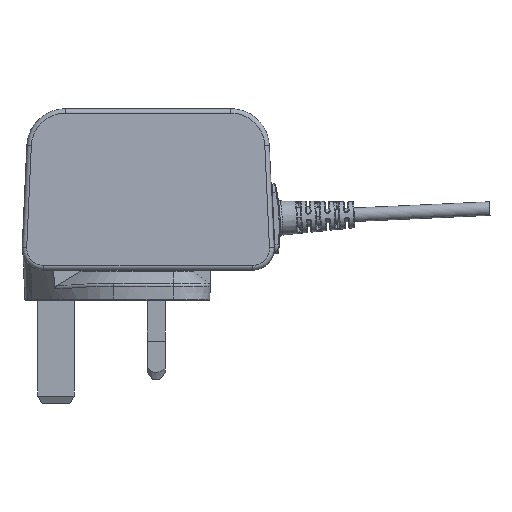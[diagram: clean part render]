
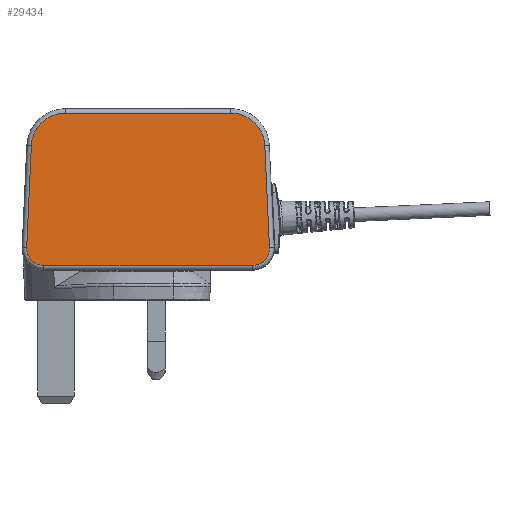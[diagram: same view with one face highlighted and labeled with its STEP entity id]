
A CAD part, left-side view. The second image highlights one B-rep face of the part: STEP entity #29434.
In plain terms, the highlighted planar face has unit normal (-0.999, 0, 0.037).
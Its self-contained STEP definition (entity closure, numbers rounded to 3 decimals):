
#217 = DIRECTION ( 'NONE',  ( -0.025, 0.723, -0.69 ) ) ;
#372 = CARTESIAN_POINT ( 'NONE',  ( 17.325, -21.485, 22.44 ) ) ;
#1573 = ORIENTED_EDGE ( 'NONE', *, *, #40027, .F. ) ;
#2271 = CIRCLE ( 'NONE', #31994, 7.502 ) ;
#4343 = DIRECTION ( 'NONE',  ( 0.027, -0.691, 0.723 ) ) ;
#4667 = DIRECTION ( 'NONE',  ( 0., -1., 0. ) ) ;
#4748 = CARTESIAN_POINT ( 'NONE',  ( 16.503, -16.763, 0.035 ) ) ;
#5650 = ORIENTED_EDGE ( 'NONE', *, *, #34637, .F. ) ;
#6439 = ORIENTED_EDGE ( 'NONE', *, *, #28476, .F. ) ;
#6843 = VECTOR ( 'NONE', #4667, 1000. ) ;
#7517 = CARTESIAN_POINT ( 'NONE',  ( 17.337, -65.615, 22.777 ) ) ;
#8200 = DIRECTION ( 'NONE',  ( 0.999, 0., -0.037 ) ) ;
#8669 = AXIS2_PLACEMENT_3D ( 'NONE', #46934, #55952, #19864 ) ;
#8908 = AXIS2_PLACEMENT_3D ( 'NONE', #45506, #37393, #4343 ) ;
#9168 = LINE ( 'NONE', #45833, #6843 ) ;
#9344 = ORIENTED_EDGE ( 'NONE', *, *, #32627, .F. ) ;
#9481 = VERTEX_POINT ( 'NONE', #56404 ) ;
#9579 = ORIENTED_EDGE ( 'NONE', *, *, #16139, .F. ) ;
#10970 = EDGE_CURVE ( 'NONE', #55919, #27155, #45122, .T. ) ;
#11161 = DIRECTION ( 'NONE',  ( 0.999, 0., -0.037 ) ) ;
#12533 = EDGE_CURVE ( 'NONE', #24747, #17348, #9168, .T. ) ;
#12890 = CARTESIAN_POINT ( 'NONE',  ( 17.524, -16.303, 27.861 ) ) ;
#13050 = CARTESIAN_POINT ( 'NONE',  ( 17.6, -58.123, 29.937 ) ) ;
#13694 = CIRCLE ( 'NONE', #8908, 7.502 ) ;
#13871 = VERTEX_POINT ( 'NONE', #13899 ) ;
#13899 = CARTESIAN_POINT ( 'NONE',  ( 16.407, -14.015, -2.589 ) ) ;
#13904 = ORIENTED_EDGE ( 'NONE', *, *, #52608, .T. ) ;
#15664 = AXIS2_PLACEMENT_3D ( 'NONE', #4748, #23035, #217 ) ;
#15711 = AXIS2_PLACEMENT_3D ( 'NONE', #25542, #39107, #57450 ) ;
#15741 = CIRCLE ( 'NONE', #49341, 7.502 ) ;
#15856 = FACE_OUTER_BOUND ( 'NONE', #34089, .T. ) ;
#16061 = DIRECTION ( 'NONE',  ( 0.999, 0., -0.037 ) ) ;
#16072 = DIRECTION ( 'NONE',  ( 0.999, 0., -0.037 ) ) ;
#16139 = EDGE_CURVE ( 'NONE', #13871, #51333, #47408, .T. ) ;
#16426 = ORIENTED_EDGE ( 'NONE', *, *, #12533, .T. ) ;
#17348 = VERTEX_POINT ( 'NONE', #34173 ) ;
#19864 = DIRECTION ( 'NONE',  ( 0.002, -0.999, 0.047 ) ) ;
#21538 = AXIS2_PLACEMENT_3D ( 'NONE', #372, #8200, #44868 ) ;
#22081 = ORIENTED_EDGE ( 'NONE', *, *, #35613, .F. ) ;
#22468 = AXIS2_PLACEMENT_3D ( 'NONE', #52036, #11161, #56577 ) ;
#22636 = VECTOR ( 'NONE', #39369, 1000. ) ;
#23035 = DIRECTION ( 'NONE',  ( 0.999, 0., -0.037 ) ) ;
#24747 = VERTEX_POINT ( 'NONE', #32420 ) ;
#25292 = AXIS2_PLACEMENT_3D ( 'NONE', #26023, #57632, #48311 ) ;
#25341 = DIRECTION ( 'NONE',  ( 0.002, 0.999, 0.045 ) ) ;
#25542 = CARTESIAN_POINT ( 'NONE',  ( 16.503, -16.763, 0.035 ) ) ;
#25640 = VERTEX_POINT ( 'NONE', #12890 ) ;
#26023 = CARTESIAN_POINT ( 'NONE',  ( 16.498, -71.664, -0.1 ) ) ;
#26432 = ORIENTED_EDGE ( 'NONE', *, *, #10970, .F. ) ;
#27155 = VERTEX_POINT ( 'NONE', #50040 ) ;
#28476 = EDGE_CURVE ( 'NONE', #53447, #54599, #13694, .T. ) ;
#29353 = CARTESIAN_POINT ( 'NONE',  ( 16.51, -12.966, 0.209 ) ) ;
#29434 = ADVANCED_FACE ( 'NONE', ( #15856 ), #39582, .F. ) ;
#30418 = LINE ( 'NONE', #43671, #48364 ) ;
#31994 = AXIS2_PLACEMENT_3D ( 'NONE', #34404, #16061, #25341 ) ;
#32296 = EDGE_CURVE ( 'NONE', #51333, #44965, #30418, .T. ) ;
#32420 = CARTESIAN_POINT ( 'NONE',  ( 16.364, -16.761, -3.763 ) ) ;
#32627 = EDGE_CURVE ( 'NONE', #27155, #17348, #58030, .T. ) ;
#34089 = EDGE_LOOP ( 'NONE', ( #26432, #1573, #6439, #22081, #13904, #38882, #5650, #35314, #9579, #41663, #16426, #9344 ) ) ;
#34173 = CARTESIAN_POINT ( 'NONE',  ( 16.364, -62.842, -3.763 ) ) ;
#34404 = CARTESIAN_POINT ( 'NONE',  ( 17.325, -21.485, 22.44 ) ) ;
#34637 = EDGE_CURVE ( 'NONE', #44965, #25640, #2271, .T. ) ;
#35314 = ORIENTED_EDGE ( 'NONE', *, *, #32296, .F. ) ;
#35613 = EDGE_CURVE ( 'NONE', #45875, #53447, #15741, .T. ) ;
#35885 = LINE ( 'NONE', #13050, #54124 ) ;
#37393 = DIRECTION ( 'NONE',  ( 0.999, 0., -0.037 ) ) ;
#38190 = CARTESIAN_POINT ( 'NONE',  ( 16.51, -66.64, 0.209 ) ) ;
#38882 = ORIENTED_EDGE ( 'NONE', *, *, #54141, .F. ) ;
#39107 = DIRECTION ( 'NONE',  ( 0.999, 0., -0.037 ) ) ;
#39369 = DIRECTION ( 'NONE',  ( -0.037, -0.045, -0.998 ) ) ;
#39582 = PLANE ( 'NONE',  #25292 ) ;
#40027 = EDGE_CURVE ( 'NONE', #54599, #55919, #52624, .T. ) ;
#41663 = ORIENTED_EDGE ( 'NONE', *, *, #55013, .F. ) ;
#41690 = CARTESIAN_POINT ( 'NONE',  ( 17.524, -63.302, 27.862 ) ) ;
#43234 = CARTESIAN_POINT ( 'NONE',  ( 17.6, -58.123, 29.937 ) ) ;
#43671 = CARTESIAN_POINT ( 'NONE',  ( 16.51, -12.966, 0.209 ) ) ;
#44406 = CARTESIAN_POINT ( 'NONE',  ( 17.337, -65.615, 22.777 ) ) ;
#44868 = DIRECTION ( 'NONE',  ( 0.026, 0.691, 0.723 ) ) ;
#44965 = VERTEX_POINT ( 'NONE', #58244 ) ;
#45122 = CIRCLE ( 'NONE', #8669, 3.801 ) ;
#45414 = CIRCLE ( 'NONE', #21538, 7.502 ) ;
#45506 = CARTESIAN_POINT ( 'NONE',  ( 17.325, -58.121, 22.44 ) ) ;
#45833 = CARTESIAN_POINT ( 'NONE',  ( 16.364, -16.761, -3.763 ) ) ;
#45875 = VERTEX_POINT ( 'NONE', #43234 ) ;
#46934 = CARTESIAN_POINT ( 'NONE',  ( 16.503, -62.843, 0.035 ) ) ;
#47408 = CIRCLE ( 'NONE', #15664, 3.801 ) ;
#48221 = DIRECTION ( 'NONE',  ( 0.037, 0., 0.999 ) ) ;
#48311 = DIRECTION ( 'NONE',  ( 0., -1., 0. ) ) ;
#48364 = VECTOR ( 'NONE', #58102, 1000. ) ;
#49341 = AXIS2_PLACEMENT_3D ( 'NONE', #57279, #16072, #48221 ) ;
#50040 = CARTESIAN_POINT ( 'NONE',  ( 16.407, -65.591, -2.589 ) ) ;
#50335 = CIRCLE ( 'NONE', #15711, 3.801 ) ;
#51333 = VERTEX_POINT ( 'NONE', #29353 ) ;
#52036 = CARTESIAN_POINT ( 'NONE',  ( 16.503, -62.843, 0.035 ) ) ;
#52608 = EDGE_CURVE ( 'NONE', #45875, #9481, #35885, .T. ) ;
#52624 = LINE ( 'NONE', #7517, #22636 ) ;
#53447 = VERTEX_POINT ( 'NONE', #41690 ) ;
#54124 = VECTOR ( 'NONE', #59373, 1000. ) ;
#54141 = EDGE_CURVE ( 'NONE', #25640, #9481, #45414, .T. ) ;
#54599 = VERTEX_POINT ( 'NONE', #44406 ) ;
#55013 = EDGE_CURVE ( 'NONE', #24747, #13871, #50335, .T. ) ;
#55919 = VERTEX_POINT ( 'NONE', #38190 ) ;
#55952 = DIRECTION ( 'NONE',  ( 0.999, 0., -0.037 ) ) ;
#56404 = CARTESIAN_POINT ( 'NONE',  ( 17.6, -21.483, 29.937 ) ) ;
#56577 = DIRECTION ( 'NONE',  ( -0.025, -0.723, -0.69 ) ) ;
#57279 = CARTESIAN_POINT ( 'NONE',  ( 17.325, -58.121, 22.44 ) ) ;
#57450 = DIRECTION ( 'NONE',  ( -0.037, 0.001, -0.999 ) ) ;
#57632 = DIRECTION ( 'NONE',  ( 0.999, 0., -0.037 ) ) ;
#58030 = CIRCLE ( 'NONE', #22468, 3.801 ) ;
#58102 = DIRECTION ( 'NONE',  ( 0.037, -0.045, 0.998 ) ) ;
#58244 = CARTESIAN_POINT ( 'NONE',  ( 17.337, -13.991, 22.777 ) ) ;
#59373 = DIRECTION ( 'NONE',  ( 0., 1., 0. ) ) ;
